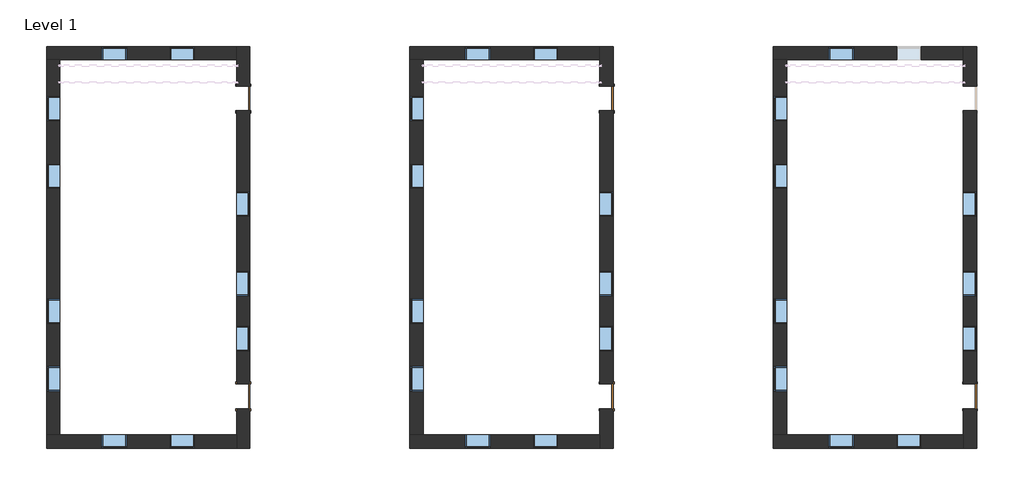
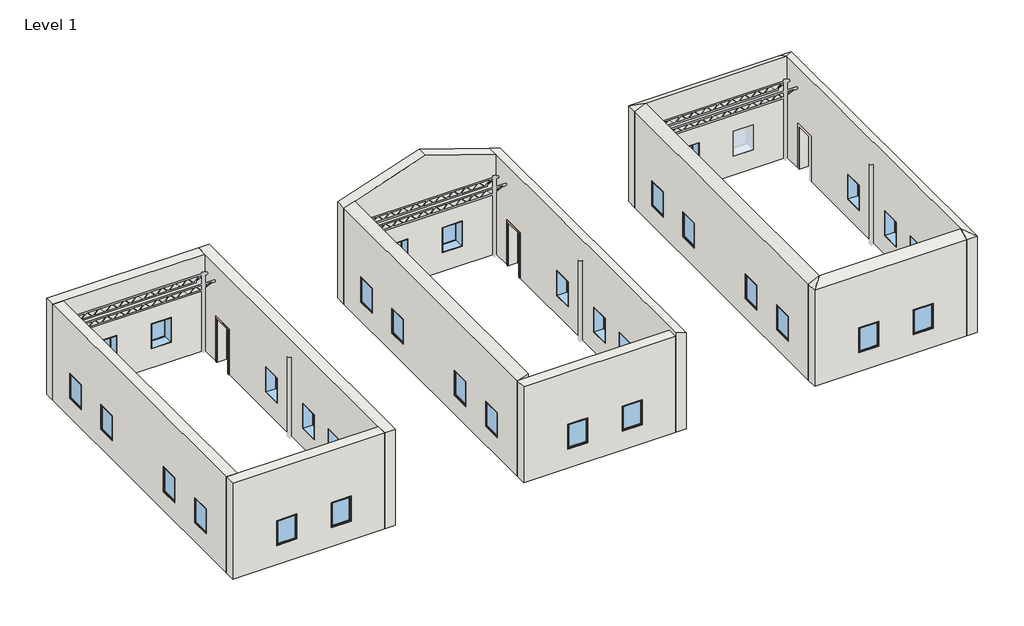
# One storey, part 1 of 2: 32 windows, 12 walls, 5 doors.
"""IFC4 building model written with IfcOpenShell, lengths in millimetres."""

from ifc_helpers import new_model, si_unit, frame, origin, place, context, project, spatial, polyline, outline, extrude, faceted_brep, transform, mapped, element, save
from components import door_88aed75c, door_7d4dd929, window_4cc3bb0a, window_eeedf783

model = new_model("IFC4")

# Units and contexts
model_context = context("Model", 3, world=origin())
ifc_project = project(units=[si_unit("LENGTHUNIT", "METRE", prefix="MILLI")], contexts=[model_context])

# Site, building, storey
site = spatial("IfcSite", under=ifc_project)
building = spatial("IfcBuilding", under=site)
storey = spatial("IfcBuildingStorey", under=building, Name="Level 1", Elevation=0.0)

# Doors
placement = place(None, origin())
door_shape = door_88aed75c(model_context)
element("IfcDoor", 1, ObjectType="Single-Flush : 36\" x 84\"", at=placement, inside=storey, context=model_context, shape_type="MappedRepresentation", body=[
    mapped(door_shape, transform((-21266.5944089, -2505.9398477, 0.0), x_axis=(0.0, -1.0, 0.0), y_axis=(1.0, 0.0, 0.0), z_axis=(0.0, 0.0, 1.0))),
])
element("IfcDoor", 2, ObjectType="Single-Flush : 36\" x 84\"", at=placement, inside=storey, context=model_context, shape_type="MappedRepresentation", body=[
    mapped(door_shape, transform((-7855.3944089, -2505.9398477, 0.0), x_axis=(0.0, -1.0, 0.0), y_axis=(1.0, 0.0, 0.0), z_axis=(0.0, 0.0, 1.0))),
])
element("IfcDoor", 3, ObjectType="Single-Flush : 36\" x 84\"", at=placement, inside=storey, context=model_context, shape_type="MappedRepresentation", body=[
    mapped(door_shape, transform((5555.8055911, -2505.9398477, 0.0), x_axis=(0.0, -1.0, 0.0), y_axis=(1.0, 0.0, 0.0), z_axis=(0.0, 0.0, 1.0))),
])
door_2_shape = door_7d4dd929(model_context)
element("IfcDoor", 4, ObjectType="Single-Flush : 36\" x 84\"", at=placement, inside=storey, context=model_context, shape_type="MappedRepresentation", body=[
    mapped(door_2_shape, transform((-21266.5944089, 8498.6101523, 0.0), x_axis=(0.0, 1.0, 0.0), y_axis=(-1.0, 0.0, 0.0), z_axis=(0.0, 0.0, 1.0))),
])
element("IfcDoor", 5, ObjectType="Single-Flush : 36\" x 84\"", at=placement, inside=storey, context=model_context, shape_type="MappedRepresentation", body=[
    mapped(door_2_shape, transform((-7855.3944089, 8498.6101523, 0.0), x_axis=(0.0, 1.0, 0.0), y_axis=(-1.0, 0.0, 0.0), z_axis=(0.0, 0.0, 1.0))),
])

# Walls
element("IfcWall", 6, ObjectType="Exterior - Brick on CMU", at=placement, inside=storey, context=model_context, shape_type="Brep", body=[
    faceted_brep([(-21018.9444089, 8955.8101523, 2133.6), (-21018.9444089, 8955.8101523, 0.0), (-21018.9444089, 10419.4851523, 0.0), (-21018.9444089, 10419.4851523, 4673.6), (-21018.9444089, -4426.8148477, 4673.6), (-21018.9444089, -4426.8148477, 0.0), (-21018.9444089, -2963.1398477, 0.0), (-21018.9444089, -2963.1398477, 2133.6), (-21018.9444089, -2048.7398477, 2133.6), (-21018.9444089, -2048.7398477, 0.0), (-21018.9444089, 8041.4101523, 0.0), (-21018.9444089, 8041.4101523, 2133.6), (-21018.9444089, 4139.3351523, 2133.6), (-21018.9444089, 5053.7351523, 2133.6), (-21018.9444089, 5053.7351523, 914.4), (-21018.9444089, 4139.3351523, 914.4), (-21018.9444089, -829.5398477, 2133.6), (-21018.9444089, 84.8601523, 2133.6), (-21018.9444089, 84.8601523, 914.4), (-21018.9444089, -829.5398477, 914.4), (-21018.9444089, 1202.4601523, 2133.6), (-21018.9444089, 2116.8601523, 2133.6), (-21018.9444089, 2116.8601523, 914.4), (-21018.9444089, 1202.4601523, 914.4), (-21514.2444089, 10419.4851523, 0.0), (-21514.2444089, 9924.1851523, 0.0), (-21514.2444089, 8955.8101523, 0.0), (-21514.2444089, 8955.8101523, 2133.6), (-21514.2444089, 8041.4101523, 2133.6), (-21514.2444089, 8041.4101523, 0.0), (-21514.2444089, -2048.7398477, 0.0), (-21514.2444089, -2048.7398477, 2133.6), (-21514.2444089, -2963.1398477, 2133.6), (-21514.2444089, -2963.1398477, 0.0), (-21514.2444089, -3931.5148477, 0.0), (-21514.2444089, -4426.8148477, 0.0), (-21514.2444089, -4426.8148477, 4673.6), (-21514.2444089, -3931.5148477, 4673.6), (-21514.2444089, 9924.1851523, 4673.6), (-21514.2444089, 10419.4851523, 4673.6), (-21514.2444089, 4139.3351523, 2133.6), (-21514.2444089, 4139.3351523, 914.4), (-21514.2444089, 5053.7351523, 914.4), (-21514.2444089, 5053.7351523, 2133.6), (-21514.2444089, -829.5398477, 2133.6), (-21514.2444089, -829.5398477, 914.4), (-21514.2444089, 84.8601523, 914.4), (-21514.2444089, 84.8601523, 2133.6), (-21514.2444089, 1202.4601523, 2133.6), (-21514.2444089, 1202.4601523, 914.4), (-21514.2444089, 2116.8601523, 914.4), (-21514.2444089, 2116.8601523, 2133.6)], [[[0, 1, 2, 3, 4, 5, 6, 7, 8, 9, 10, 11], [12, 13, 14, 15], [16, 17, 18, 19], [20, 21, 22, 23]], [[24, 25, 26, 27, 28, 29, 30, 31, 32, 33, 34, 35, 36, 37, 38, 39], [40, 41, 42, 43], [44, 45, 46, 47], [48, 49, 50, 51]], [[35, 34, 33, 6, 5]], [[2, 1, 26, 25, 24]], [[10, 9, 30, 29]], [[4, 3, 39, 38, 37, 36]], [[3, 2, 24, 39]], [[5, 4, 36, 35]], [[7, 6, 33, 32]], [[8, 7, 32, 31]], [[9, 8, 31, 30]], [[27, 26, 1, 0]], [[28, 27, 0, 11]], [[29, 28, 11, 10]], [[41, 40, 12, 15]], [[42, 41, 15, 14]], [[43, 42, 14, 13]], [[40, 43, 13, 12]], [[45, 44, 16, 19]], [[46, 45, 19, 18]], [[47, 46, 18, 17]], [[44, 47, 17, 16]], [[49, 48, 20, 23]], [[50, 49, 23, 22]], [[51, 50, 22, 21]], [[48, 51, 21, 20]]]),
])
element("IfcWall", 7, ObjectType="Exterior - Brick on CMU", at=placement, inside=storey, context=model_context, shape_type="Brep", body=[
    faceted_brep([(-21514.2444089, 10419.4851523, 0.0), (-28524.6444089, 10419.4851523, 0.0), (-28524.6444089, 10419.4851523, 4673.6), (-21514.2444089, 10419.4851523, 4673.6), (-26479.9444089, 10419.4851523, 2133.6), (-26479.9444089, 10419.4851523, 914.4), (-25565.5444089, 10419.4851523, 914.4), (-25565.5444089, 10419.4851523, 2133.6), (-23978.0444089, 10419.4851523, 2133.6), (-23978.0444089, 10419.4851523, 914.4), (-23063.6444089, 10419.4851523, 914.4), (-23063.6444089, 10419.4851523, 2133.6), (-21514.2444089, 9924.1851523, 0.0), (-21514.2444089, 9924.1851523, 4673.6), (-28029.3444089, 9924.1851523, 4673.6), (-28524.6444089, 9924.1851523, 4673.6), (-28524.6444089, 9924.1851523, 0.0), (-28029.3444089, 9924.1851523, 0.0), (-26479.9444089, 9924.1851523, 2133.6), (-25565.5444089, 9924.1851523, 2133.6), (-25565.5444089, 9924.1851523, 914.4), (-26479.9444089, 9924.1851523, 914.4), (-23978.0444089, 9924.1851523, 2133.6), (-23063.6444089, 9924.1851523, 2133.6), (-23063.6444089, 9924.1851523, 914.4), (-23978.0444089, 9924.1851523, 914.4)], [[[0, 1, 2, 3], [4, 5, 6, 7], [8, 9, 10, 11]], [[12, 13, 14, 15, 16, 17], [18, 19, 20, 21], [22, 23, 24, 25]], [[1, 0, 12, 17, 16]], [[3, 2, 15, 14, 13]], [[0, 3, 13, 12]], [[2, 1, 16, 15]], [[5, 4, 18, 21]], [[6, 5, 21, 20]], [[7, 6, 20, 19]], [[4, 7, 19, 18]], [[9, 8, 22, 25]], [[10, 9, 25, 24]], [[11, 10, 24, 23]], [[8, 11, 23, 22]]]),
])
element("IfcWall", 8, ObjectType="Exterior - Brick on CMU", at=placement, inside=storey, context=model_context, shape_type="Brep", body=[
    faceted_brep([(-21514.2444089, -3931.5148477, 0.0), (-28029.3444089, -3931.5148477, 0.0), (-28524.6444089, -3931.5148477, 0.0), (-28524.6444089, -3931.5148477, 4673.6), (-28029.3444089, -3931.5148477, 4673.6), (-21514.2444089, -3931.5148477, 4673.6), (-26479.9444089, -3931.5148477, 2133.6), (-26479.9444089, -3931.5148477, 914.4), (-25565.5444089, -3931.5148477, 914.4), (-25565.5444089, -3931.5148477, 2133.6), (-23978.0444089, -3931.5148477, 2133.6), (-23978.0444089, -3931.5148477, 914.4), (-23063.6444089, -3931.5148477, 914.4), (-23063.6444089, -3931.5148477, 2133.6), (-21514.2444089, -4426.8148477, 0.0), (-21514.2444089, -4426.8148477, 4673.6), (-28524.6444089, -4426.8148477, 4673.6), (-28524.6444089, -4426.8148477, 0.0), (-26479.9444089, -4426.8148477, 2133.6), (-25565.5444089, -4426.8148477, 2133.6), (-25565.5444089, -4426.8148477, 914.4), (-26479.9444089, -4426.8148477, 914.4), (-23978.0444089, -4426.8148477, 2133.6), (-23063.6444089, -4426.8148477, 2133.6), (-23063.6444089, -4426.8148477, 914.4), (-23978.0444089, -4426.8148477, 914.4)], [[[0, 1, 2, 3, 4, 5], [6, 7, 8, 9], [10, 11, 12, 13]], [[14, 15, 16, 17], [18, 19, 20, 21], [22, 23, 24, 25]], [[2, 1, 0, 14, 17]], [[5, 4, 3, 16, 15]], [[0, 5, 15, 14]], [[3, 2, 17, 16]], [[7, 6, 18, 21]], [[8, 7, 21, 20]], [[9, 8, 20, 19]], [[6, 9, 19, 18]], [[11, 10, 22, 25]], [[12, 11, 25, 24]], [[13, 12, 24, 23]], [[10, 13, 23, 22]]]),
])
element("IfcWall", 9, ObjectType="Exterior - Brick on CMU", at=placement, inside=storey, context=model_context, shape_type="SweptSolid", body=[
    extrude(outline(polyline([(-3931.5148477, 0.0), (-3931.5148477, 4673.6), (9924.1851523, 4673.6), (9924.1851523, 0.0), (-3931.5148477, 0.0)]), holes=[polyline([(-1398.923181, 2133.6), (-2313.323181, 2133.6), (-2313.323181, 914.4), (-1398.923181, 914.4), (-1398.923181, 2133.6)]), polyline([(8579.0434857, 2133.6), (7664.6434857, 2133.6), (7664.6434857, 914.4), (8579.0434857, 914.4), (8579.0434857, 2133.6)]), polyline([(1095.5684857, 2133.6), (181.1684857, 2133.6), (181.1684857, 914.4), (1095.5684857, 914.4), (1095.5684857, 2133.6)]), polyline([(6084.551819, 2133.6), (5170.151819, 2133.6), (5170.151819, 914.4), (6084.551819, 914.4), (6084.551819, 2133.6)])]), frame((-28524.6444089, 0.0, 0.0), z_axis=(1.0, 0.0, 0.0), x_axis=(0.0, 1.0, 0.0)), (0.0, 0.0, 1.0), 495.3),
])
element("IfcWall", 10, ObjectType="Exterior - Brick on CMU", at=placement, inside=storey, context=model_context, shape_type="Brep", body=[
    faceted_brep([(-7607.7444089, 8955.8101523, 2133.6), (-7607.7444089, 8955.8101523, 0.0), (-7607.7444089, 10419.4851523, 0.0), (-7607.7444089, 10419.4851523, 4673.6), (-7607.7444089, -4426.8148477, 4673.6), (-7607.7444089, -4426.8148477, 0.0), (-7607.7444089, -2963.1398477, 0.0), (-7607.7444089, -2963.1398477, 2133.6), (-7607.7444089, -2048.7398477, 2133.6), (-7607.7444089, -2048.7398477, 0.0), (-7607.7444089, 8041.4101523, 0.0), (-7607.7444089, 8041.4101523, 2133.6), (-7607.7444089, 4139.3351523, 2133.6), (-7607.7444089, 5053.7351523, 2133.6), (-7607.7444089, 5053.7351523, 914.4), (-7607.7444089, 4139.3351523, 914.4), (-7607.7444089, -829.5398477, 2133.6), (-7607.7444089, 84.8601523, 2133.6), (-7607.7444089, 84.8601523, 914.4), (-7607.7444089, -829.5398477, 914.4), (-7607.7444089, 1202.4601523, 2133.6), (-7607.7444089, 2116.8601523, 2133.6), (-7607.7444089, 2116.8601523, 914.4), (-7607.7444089, 1202.4601523, 914.4), (-8103.0444089, 10419.4851523, 0.0), (-8103.0444089, 9924.1851523, 0.0), (-8103.0444089, 8955.8101523, 0.0), (-8103.0444089, 8955.8101523, 2133.6), (-8103.0444089, 8041.4101523, 2133.6), (-8103.0444089, 8041.4101523, 0.0), (-8103.0444089, -2048.7398477, 0.0), (-8103.0444089, -2048.7398477, 2133.6), (-8103.0444089, -2963.1398477, 2133.6), (-8103.0444089, -2963.1398477, 0.0), (-8103.0444089, -3931.5148477, 0.0), (-8103.0444089, -4426.8148477, 0.0), (-8103.0444089, -4426.8148477, 4673.6), (-8103.0444089, -4426.8148477, 4838.7), (-8103.0444089, 9924.1851523, 4838.7), (-8103.0444089, 10419.4851523, 4838.7), (-8103.0444089, 4139.3351523, 2133.6), (-8103.0444089, 4139.3351523, 914.4), (-8103.0444089, 5053.7351523, 914.4), (-8103.0444089, 5053.7351523, 2133.6), (-8103.0444089, -829.5398477, 2133.6), (-8103.0444089, -829.5398477, 914.4), (-8103.0444089, 84.8601523, 914.4), (-8103.0444089, 84.8601523, 2133.6), (-8103.0444089, 1202.4601523, 2133.6), (-8103.0444089, 1202.4601523, 914.4), (-8103.0444089, 2116.8601523, 914.4), (-8103.0444089, 2116.8601523, 2133.6)], [[[0, 1, 2, 3, 4, 5, 6, 7, 8, 9, 10, 11], [12, 13, 14, 15], [16, 17, 18, 19], [20, 21, 22, 23]], [[24, 25, 26, 27, 28, 29, 30, 31, 32, 33, 34, 35, 36, 37, 38, 39], [40, 41, 42, 43], [44, 45, 46, 47], [48, 49, 50, 51]], [[35, 34, 33, 6, 5]], [[2, 1, 26, 25, 24]], [[10, 9, 30, 29]], [[3, 2, 24, 39]], [[5, 4, 37, 36, 35]], [[4, 3, 39, 38, 37]], [[7, 6, 33, 32]], [[8, 7, 32, 31]], [[9, 8, 31, 30]], [[27, 26, 1, 0]], [[28, 27, 0, 11]], [[29, 28, 11, 10]], [[41, 40, 12, 15]], [[42, 41, 15, 14]], [[43, 42, 14, 13]], [[40, 43, 13, 12]], [[45, 44, 16, 19]], [[46, 45, 19, 18]], [[47, 46, 18, 17]], [[44, 47, 17, 16]], [[49, 48, 20, 23]], [[50, 49, 23, 22]], [[51, 50, 22, 21]], [[48, 51, 21, 20]]]),
])
element("IfcWall", 11, ObjectType="Exterior - Brick on CMU", at=placement, inside=storey, context=model_context, shape_type="Brep", body=[
    faceted_brep([(-8103.0444089, 10419.4851523, 0.0), (-15113.4444089, 10419.4851523, 0.0), (-15113.4444089, 10419.4851523, 4673.6), (-11360.5944089, 10419.4851523, 5924.55), (-8103.0444089, 10419.4851523, 4838.7), (-13068.7444089, 10419.4851523, 2133.6), (-13068.7444089, 10419.4851523, 914.4), (-12154.3444089, 10419.4851523, 914.4), (-12154.3444089, 10419.4851523, 2133.6), (-10566.8444089, 10419.4851523, 2133.6), (-10566.8444089, 10419.4851523, 914.4), (-9652.4444089, 10419.4851523, 914.4), (-9652.4444089, 10419.4851523, 2133.6), (-8103.0444089, 9924.1851523, 0.0), (-8103.0444089, 9924.1851523, 4838.7), (-11360.5944089, 9924.1851523, 5924.55), (-14618.1444089, 9924.1851523, 4838.7), (-15113.4444089, 9924.1851523, 4673.6), (-15113.4444089, 9924.1851523, 0.0), (-14618.1444089, 9924.1851523, 0.0), (-13068.7444089, 9924.1851523, 2133.6), (-12154.3444089, 9924.1851523, 2133.6), (-12154.3444089, 9924.1851523, 914.4), (-13068.7444089, 9924.1851523, 914.4), (-10566.8444089, 9924.1851523, 2133.6), (-9652.4444089, 9924.1851523, 2133.6), (-9652.4444089, 9924.1851523, 914.4), (-10566.8444089, 9924.1851523, 914.4)], [[[0, 1, 2, 3, 4], [5, 6, 7, 8], [9, 10, 11, 12]], [[13, 14, 15, 16, 17, 18, 19], [20, 21, 22, 23], [24, 25, 26, 27]], [[1, 0, 13, 19, 18]], [[0, 4, 14, 13]], [[2, 1, 18, 17]], [[4, 3, 15, 14]], [[3, 2, 17, 16, 15]], [[6, 5, 20, 23]], [[7, 6, 23, 22]], [[8, 7, 22, 21]], [[5, 8, 21, 20]], [[10, 9, 24, 27]], [[11, 10, 27, 26]], [[12, 11, 26, 25]], [[9, 12, 25, 24]]]),
])
element("IfcWall", 12, ObjectType="Exterior - Brick on CMU", at=placement, inside=storey, context=model_context, shape_type="Brep", body=[
    faceted_brep([(-8103.0444089, -3931.5148477, 0.0), (-14618.1444089, -3931.5148477, 0.0), (-15113.4444089, -3931.5148477, 0.0), (-15113.4444089, -3931.5148477, 4673.6), (-8103.0444089, -3931.5148477, 4673.6), (-13068.7444089, -3931.5148477, 2133.6), (-13068.7444089, -3931.5148477, 914.4), (-12154.3444089, -3931.5148477, 914.4), (-12154.3444089, -3931.5148477, 2133.6), (-10566.8444089, -3931.5148477, 2133.6), (-10566.8444089, -3931.5148477, 914.4), (-9652.4444089, -3931.5148477, 914.4), (-9652.4444089, -3931.5148477, 2133.6), (-8103.0444089, -4426.8148477, 0.0), (-8103.0444089, -4426.8148477, 4673.6), (-15113.4444089, -4426.8148477, 4673.6), (-15113.4444089, -4426.8148477, 0.0), (-13068.7444089, -4426.8148477, 2133.6), (-12154.3444089, -4426.8148477, 2133.6), (-12154.3444089, -4426.8148477, 914.4), (-13068.7444089, -4426.8148477, 914.4), (-10566.8444089, -4426.8148477, 2133.6), (-9652.4444089, -4426.8148477, 2133.6), (-9652.4444089, -4426.8148477, 914.4), (-10566.8444089, -4426.8148477, 914.4)], [[[0, 1, 2, 3, 4], [5, 6, 7, 8], [9, 10, 11, 12]], [[13, 14, 15, 16], [17, 18, 19, 20], [21, 22, 23, 24]], [[2, 1, 0, 13, 16]], [[4, 3, 15, 14]], [[0, 4, 14, 13]], [[3, 2, 16, 15]], [[6, 5, 17, 20]], [[7, 6, 20, 19]], [[8, 7, 19, 18]], [[5, 8, 18, 17]], [[10, 9, 21, 24]], [[11, 10, 24, 23]], [[12, 11, 23, 22]], [[9, 12, 22, 21]]]),
])
element("IfcWall", 13, ObjectType="Exterior - Brick on CMU", at=placement, inside=storey, context=model_context, shape_type="Brep", body=[
    faceted_brep([(-14618.1444089, -3931.5148477, 0.0), (-14618.1444089, 9924.1851523, 0.0), (-14618.1444089, 9924.1851523, 4838.7), (-14618.1444089, -3931.5148477, 4838.7), (-14618.1444089, -1398.923181, 2133.6), (-14618.1444089, -1398.923181, 914.4), (-14618.1444089, -2313.323181, 914.4), (-14618.1444089, -2313.323181, 2133.6), (-14618.1444089, 8579.0434857, 2133.6), (-14618.1444089, 8579.0434857, 914.4), (-14618.1444089, 7664.6434857, 914.4), (-14618.1444089, 7664.6434857, 2133.6), (-14618.1444089, 1095.5684857, 2133.6), (-14618.1444089, 1095.5684857, 914.4), (-14618.1444089, 181.1684857, 914.4), (-14618.1444089, 181.1684857, 2133.6), (-14618.1444089, 6084.551819, 2133.6), (-14618.1444089, 6084.551819, 914.4), (-14618.1444089, 5170.151819, 914.4), (-14618.1444089, 5170.151819, 2133.6), (-15113.4444089, -3931.5148477, 0.0), (-15113.4444089, -3931.5148477, 4673.6), (-15113.4444089, 9924.1851523, 4673.6), (-15113.4444089, 9924.1851523, 0.0), (-15113.4444089, -1398.923181, 2133.6), (-15113.4444089, -2313.323181, 2133.6), (-15113.4444089, -2313.323181, 914.4), (-15113.4444089, -1398.923181, 914.4), (-15113.4444089, 8579.0434857, 2133.6), (-15113.4444089, 7664.6434857, 2133.6), (-15113.4444089, 7664.6434857, 914.4), (-15113.4444089, 8579.0434857, 914.4), (-15113.4444089, 1095.5684857, 2133.6), (-15113.4444089, 181.1684857, 2133.6), (-15113.4444089, 181.1684857, 914.4), (-15113.4444089, 1095.5684857, 914.4), (-15113.4444089, 6084.551819, 2133.6), (-15113.4444089, 5170.151819, 2133.6), (-15113.4444089, 5170.151819, 914.4), (-15113.4444089, 6084.551819, 914.4)], [[[0, 1, 2, 3], [4, 5, 6, 7], [8, 9, 10, 11], [12, 13, 14, 15], [16, 17, 18, 19]], [[20, 21, 22, 23], [24, 25, 26, 27], [28, 29, 30, 31], [32, 33, 34, 35], [36, 37, 38, 39]], [[1, 0, 20, 23]], [[2, 1, 23, 22]], [[0, 3, 21, 20]], [[3, 2, 22, 21]], [[5, 4, 24, 27]], [[6, 5, 27, 26]], [[7, 6, 26, 25]], [[4, 7, 25, 24]], [[9, 8, 28, 31]], [[10, 9, 31, 30]], [[11, 10, 30, 29]], [[8, 11, 29, 28]], [[13, 12, 32, 35]], [[14, 13, 35, 34]], [[15, 14, 34, 33]], [[12, 15, 33, 32]], [[17, 16, 36, 39]], [[18, 17, 39, 38]], [[19, 18, 38, 37]], [[16, 19, 37, 36]]]),
])
element("IfcWall", 14, ObjectType="Exterior - Brick on CMU", at=placement, inside=storey, context=model_context, shape_type="Brep", body=[
    faceted_brep([(5803.4555911, 8955.8101523, 2133.6), (5803.4555911, 8955.8101523, 0.0), (5803.4555911, 10419.4851523, 0.0), (5803.4555911, 10419.4851523, 4673.6), (5803.4555911, -4426.8148477, 4673.6), (5803.4555911, -4426.8148477, 0.0), (5803.4555911, -2963.1398477, 0.0), (5803.4555911, -2963.1398477, 2133.6), (5803.4555911, -2048.7398477, 2133.6), (5803.4555911, -2048.7398477, 0.0), (5803.4555911, 8041.4101523, 0.0), (5803.4555911, 8041.4101523, 2133.6), (5803.4555911, 4139.3351523, 2133.6), (5803.4555911, 5053.7351523, 2133.6), (5803.4555911, 5053.7351523, 914.4), (5803.4555911, 4139.3351523, 914.4), (5803.4555911, -829.5398477, 2133.6), (5803.4555911, 84.8601523, 2133.6), (5803.4555911, 84.8601523, 914.4), (5803.4555911, -829.5398477, 914.4), (5803.4555911, 1202.4601523, 2133.6), (5803.4555911, 2116.8601523, 2133.6), (5803.4555911, 2116.8601523, 914.4), (5803.4555911, 1202.4601523, 914.4), (5308.1555911, 10419.4851523, 0.0), (5308.1555911, 9924.1851523, 0.0), (5308.1555911, 8955.8101523, 0.0), (5308.1555911, 8955.8101523, 2133.6), (5308.1555911, 8041.4101523, 2133.6), (5308.1555911, 8041.4101523, 0.0), (5308.1555911, -2048.7398477, 0.0), (5308.1555911, -2048.7398477, 2133.6), (5308.1555911, -2963.1398477, 2133.6), (5308.1555911, -2963.1398477, 0.0), (5308.1555911, -3931.5148477, 0.0), (5308.1555911, -4426.8148477, 0.0), (5308.1555911, -4426.8148477, 4673.6), (5308.1555911, -3931.5148477, 4921.25), (5308.1555911, 9924.1851523, 4921.25), (5308.1555911, 10419.4851523, 4673.6), (5308.1555911, 4139.3351523, 2133.6), (5308.1555911, 4139.3351523, 914.4), (5308.1555911, 5053.7351523, 914.4), (5308.1555911, 5053.7351523, 2133.6), (5308.1555911, -829.5398477, 2133.6), (5308.1555911, -829.5398477, 914.4), (5308.1555911, 84.8601523, 914.4), (5308.1555911, 84.8601523, 2133.6), (5308.1555911, 1202.4601523, 2133.6), (5308.1555911, 1202.4601523, 914.4), (5308.1555911, 2116.8601523, 914.4), (5308.1555911, 2116.8601523, 2133.6)], [[[0, 1, 2, 3, 4, 5, 6, 7, 8, 9, 10, 11], [12, 13, 14, 15], [16, 17, 18, 19], [20, 21, 22, 23]], [[24, 25, 26, 27, 28, 29, 30, 31, 32, 33, 34, 35, 36, 37, 38, 39], [40, 41, 42, 43], [44, 45, 46, 47], [48, 49, 50, 51]], [[35, 34, 33, 6, 5]], [[2, 1, 26, 25, 24]], [[10, 9, 30, 29]], [[3, 2, 24, 39]], [[5, 4, 36, 35]], [[4, 3, 38, 37]], [[3, 39, 38]], [[37, 36, 4]], [[7, 6, 33, 32]], [[8, 7, 32, 31]], [[9, 8, 31, 30]], [[27, 26, 1, 0]], [[28, 27, 0, 11]], [[29, 28, 11, 10]], [[41, 40, 12, 15]], [[42, 41, 15, 14]], [[43, 42, 14, 13]], [[40, 43, 13, 12]], [[45, 44, 16, 19]], [[46, 45, 19, 18]], [[47, 46, 18, 17]], [[44, 47, 17, 16]], [[49, 48, 20, 23]], [[50, 49, 23, 22]], [[51, 50, 22, 21]], [[48, 51, 21, 20]]]),
])
element("IfcWall", 15, ObjectType="Exterior - Brick on CMU", at=placement, inside=storey, context=model_context, shape_type="Brep", body=[
    faceted_brep([(5308.1555911, 10419.4851523, 0.0), (-1702.2444089, 10419.4851523, 0.0), (-1702.2444089, 10419.4851523, 4673.6), (5308.1555911, 10419.4851523, 4673.6), (342.4555911, 10419.4851523, 2133.6), (342.4555911, 10419.4851523, 914.4), (1256.8555911, 10419.4851523, 914.4), (1256.8555911, 10419.4851523, 2133.6), (2844.3555911, 10419.4851523, 2133.6), (2844.3555911, 10419.4851523, 914.4), (3758.7555911, 10419.4851523, 914.4), (3758.7555911, 10419.4851523, 2133.6), (5308.1555911, 9924.1851523, 0.0), (5308.1555911, 9924.1851523, 4921.25), (-1206.9444089, 9924.1851523, 4921.25), (-1702.2444089, 9924.1851523, 4673.6), (-1702.2444089, 9924.1851523, 0.0), (-1206.9444089, 9924.1851523, 0.0), (342.4555911, 9924.1851523, 2133.6), (1256.8555911, 9924.1851523, 2133.6), (1256.8555911, 9924.1851523, 914.4), (342.4555911, 9924.1851523, 914.4), (2844.3555911, 9924.1851523, 2133.6), (3758.7555911, 9924.1851523, 2133.6), (3758.7555911, 9924.1851523, 914.4), (2844.3555911, 9924.1851523, 914.4)], [[[0, 1, 2, 3], [4, 5, 6, 7], [8, 9, 10, 11]], [[12, 13, 14, 15, 16, 17], [18, 19, 20, 21], [22, 23, 24, 25]], [[1, 0, 12, 17, 16]], [[0, 3, 13, 12]], [[2, 1, 16, 15]], [[3, 2, 14, 13]], [[2, 15, 14]], [[5, 4, 18, 21]], [[6, 5, 21, 20]], [[7, 6, 20, 19]], [[4, 7, 19, 18]], [[9, 8, 22, 25]], [[10, 9, 25, 24]], [[11, 10, 24, 23]], [[8, 11, 23, 22]]]),
])
element("IfcWall", 16, ObjectType="Exterior - Brick on CMU", at=placement, inside=storey, context=model_context, shape_type="Brep", body=[
    faceted_brep([(5308.1555911, -3931.5148477, 0.0), (-1206.9444089, -3931.5148477, 0.0), (-1702.2444089, -3931.5148477, 0.0), (-1702.2444089, -3931.5148477, 4673.6), (-1206.9444089, -3931.5148477, 4921.25), (5308.1555911, -3931.5148477, 4921.25), (342.4555911, -3931.5148477, 2133.6), (342.4555911, -3931.5148477, 914.4), (1256.8555911, -3931.5148477, 914.4), (1256.8555911, -3931.5148477, 2133.6), (2844.3555911, -3931.5148477, 2133.6), (2844.3555911, -3931.5148477, 914.4), (3758.7555911, -3931.5148477, 914.4), (3758.7555911, -3931.5148477, 2133.6), (5308.1555911, -4426.8148477, 0.0), (5308.1555911, -4426.8148477, 4673.6), (-1702.2444089, -4426.8148477, 4673.6), (-1702.2444089, -4426.8148477, 0.0), (342.4555911, -4426.8148477, 2133.6), (1256.8555911, -4426.8148477, 2133.6), (1256.8555911, -4426.8148477, 914.4), (342.4555911, -4426.8148477, 914.4), (2844.3555911, -4426.8148477, 2133.6), (3758.7555911, -4426.8148477, 2133.6), (3758.7555911, -4426.8148477, 914.4), (2844.3555911, -4426.8148477, 914.4)], [[[0, 1, 2, 3, 4, 5], [6, 7, 8, 9], [10, 11, 12, 13]], [[14, 15, 16, 17], [18, 19, 20, 21], [22, 23, 24, 25]], [[2, 1, 0, 14, 17]], [[0, 5, 15, 14]], [[3, 2, 17, 16]], [[5, 4, 16, 15]], [[4, 3, 16]], [[7, 6, 18, 21]], [[8, 7, 21, 20]], [[9, 8, 20, 19]], [[6, 9, 19, 18]], [[11, 10, 22, 25]], [[12, 11, 25, 24]], [[13, 12, 24, 23]], [[10, 13, 23, 22]]]),
])
element("IfcWall", 17, ObjectType="Exterior - Brick on CMU", at=placement, inside=storey, context=model_context, shape_type="Brep", body=[
    faceted_brep([(-1206.9444089, -3931.5148477, 0.0), (-1206.9444089, 9924.1851523, 0.0), (-1206.9444089, 9924.1851523, 4921.25), (-1206.9444089, -3931.5148477, 4921.25), (-1206.9444089, -1398.923181, 2133.6), (-1206.9444089, -1398.923181, 914.4), (-1206.9444089, -2313.323181, 914.4), (-1206.9444089, -2313.323181, 2133.6), (-1206.9444089, 8579.0434857, 2133.6), (-1206.9444089, 8579.0434857, 914.4), (-1206.9444089, 7664.6434857, 914.4), (-1206.9444089, 7664.6434857, 2133.6), (-1206.9444089, 1095.5684857, 2133.6), (-1206.9444089, 1095.5684857, 914.4), (-1206.9444089, 181.1684857, 914.4), (-1206.9444089, 181.1684857, 2133.6), (-1206.9444089, 6084.551819, 2133.6), (-1206.9444089, 6084.551819, 914.4), (-1206.9444089, 5170.151819, 914.4), (-1206.9444089, 5170.151819, 2133.6), (-1702.2444089, -3931.5148477, 0.0), (-1702.2444089, -3931.5148477, 4673.6), (-1702.2444089, 9924.1851523, 4673.6), (-1702.2444089, 9924.1851523, 0.0), (-1702.2444089, -1398.923181, 2133.6), (-1702.2444089, -2313.323181, 2133.6), (-1702.2444089, -2313.323181, 914.4), (-1702.2444089, -1398.923181, 914.4), (-1702.2444089, 8579.0434857, 2133.6), (-1702.2444089, 7664.6434857, 2133.6), (-1702.2444089, 7664.6434857, 914.4), (-1702.2444089, 8579.0434857, 914.4), (-1702.2444089, 1095.5684857, 2133.6), (-1702.2444089, 181.1684857, 2133.6), (-1702.2444089, 181.1684857, 914.4), (-1702.2444089, 1095.5684857, 914.4), (-1702.2444089, 6084.551819, 2133.6), (-1702.2444089, 5170.151819, 2133.6), (-1702.2444089, 5170.151819, 914.4), (-1702.2444089, 6084.551819, 914.4)], [[[0, 1, 2, 3], [4, 5, 6, 7], [8, 9, 10, 11], [12, 13, 14, 15], [16, 17, 18, 19]], [[20, 21, 22, 23], [24, 25, 26, 27], [28, 29, 30, 31], [32, 33, 34, 35], [36, 37, 38, 39]], [[1, 0, 20, 23]], [[2, 1, 23, 22]], [[0, 3, 21, 20]], [[3, 2, 22, 21]], [[5, 4, 24, 27]], [[6, 5, 27, 26]], [[7, 6, 26, 25]], [[4, 7, 25, 24]], [[9, 8, 28, 31]], [[10, 9, 31, 30]], [[11, 10, 30, 29]], [[8, 11, 29, 28]], [[13, 12, 32, 35]], [[14, 13, 35, 34]], [[15, 14, 34, 33]], [[12, 15, 33, 32]], [[17, 16, 36, 39]], [[18, 17, 39, 38]], [[19, 18, 38, 37]], [[16, 19, 37, 36]]]),
])

# Windows
window_shape = window_4cc3bb0a(model_context)
element("IfcWindow", 18, ObjectType="Fixed : 36\" x 48\"", at=placement, inside=storey, context=model_context, shape_type="MappedRepresentation", body=[
    mapped(window_shape, transform((-26060.8444089, -4179.1648477, 0.0), x_axis=(-1.0, 0.0, 0.0), y_axis=(0.0, -1.0, 0.0), z_axis=(0.0, 0.0, 1.0))),
])
element("IfcWindow", 19, ObjectType="Fixed : 36\" x 48\"", at=placement, inside=storey, context=model_context, shape_type="MappedRepresentation", body=[
    mapped(window_shape, transform((-23558.9444089, -4179.1648477, 0.0), x_axis=(-1.0, 0.0, 0.0), y_axis=(0.0, -1.0, 0.0), z_axis=(0.0, 0.0, 1.0))),
])
element("IfcWindow", 20, ObjectType="Fixed : 36\" x 48\"", at=placement, inside=storey, context=model_context, shape_type="MappedRepresentation", body=[
    mapped(window_shape, transform((-28276.9944089, -1818.023181, 0.0), x_axis=(0.0, 1.0, 0.0), y_axis=(-1.0, 0.0, 0.0), z_axis=(0.0, 0.0, 1.0))),
])
element("IfcWindow", 21, ObjectType="Fixed : 36\" x 48\"", at=placement, inside=storey, context=model_context, shape_type="MappedRepresentation", body=[
    mapped(window_shape, transform((-28276.9944089, 8159.9434857, 0.0), x_axis=(0.0, 1.0, 0.0), y_axis=(-1.0, 0.0, 0.0), z_axis=(0.0, 0.0, 1.0))),
])
element("IfcWindow", 22, ObjectType="Fixed : 36\" x 48\"", at=placement, inside=storey, context=model_context, shape_type="MappedRepresentation", body=[
    mapped(window_shape, transform((-28276.9944089, 676.4684857, 0.0), x_axis=(0.0, 1.0, 0.0), y_axis=(-1.0, 0.0, 0.0), z_axis=(0.0, 0.0, 1.0))),
])
element("IfcWindow", 23, ObjectType="Fixed : 36\" x 48\"", at=placement, inside=storey, context=model_context, shape_type="MappedRepresentation", body=[
    mapped(window_shape, transform((-28276.9944089, 5665.451819, 0.0), x_axis=(0.0, 1.0, 0.0), y_axis=(-1.0, 0.0, 0.0), z_axis=(0.0, 0.0, 1.0))),
])
element("IfcWindow", 24, ObjectType="Fixed : 36\" x 48\"", at=placement, inside=storey, context=model_context, shape_type="MappedRepresentation", body=[
    mapped(window_shape, transform((-21266.5944089, 4558.4351523, 0.0), x_axis=(0.0, -1.0, 0.0), y_axis=(1.0, 0.0, 0.0), z_axis=(0.0, 0.0, 1.0))),
])
element("IfcWindow", 25, ObjectType="Fixed : 36\" x 48\"", at=placement, inside=storey, context=model_context, shape_type="MappedRepresentation", body=[
    mapped(window_shape, transform((-21266.5944089, -410.4398477, 0.0), x_axis=(0.0, -1.0, 0.0), y_axis=(1.0, 0.0, 0.0), z_axis=(0.0, 0.0, 1.0))),
])
element("IfcWindow", 26, ObjectType="Fixed : 36\" x 48\"", at=placement, inside=storey, context=model_context, shape_type="MappedRepresentation", body=[
    mapped(window_shape, transform((-21266.5944089, 1621.5601523, 0.0), x_axis=(0.0, -1.0, 0.0), y_axis=(1.0, 0.0, 0.0), z_axis=(0.0, 0.0, 1.0))),
])
element("IfcWindow", 27, ObjectType="Fixed : 36\" x 48\"", at=placement, inside=storey, context=model_context, shape_type="MappedRepresentation", body=[
    mapped(window_shape, transform((-12649.6444089, -4179.1648477, 0.0), x_axis=(-1.0, 0.0, 0.0), y_axis=(0.0, -1.0, 0.0), z_axis=(0.0, 0.0, 1.0))),
])
element("IfcWindow", 28, ObjectType="Fixed : 36\" x 48\"", at=placement, inside=storey, context=model_context, shape_type="MappedRepresentation", body=[
    mapped(window_shape, transform((-10147.7444089, -4179.1648477, 0.0), x_axis=(-1.0, 0.0, 0.0), y_axis=(0.0, -1.0, 0.0), z_axis=(0.0, 0.0, 1.0))),
])
element("IfcWindow", 29, ObjectType="Fixed : 36\" x 48\"", at=placement, inside=storey, context=model_context, shape_type="MappedRepresentation", body=[
    mapped(window_shape, transform((-14865.7944089, -1818.023181, 0.0), x_axis=(0.0, 1.0, 0.0), y_axis=(-1.0, 0.0, 0.0), z_axis=(0.0, 0.0, 1.0))),
])
element("IfcWindow", 30, ObjectType="Fixed : 36\" x 48\"", at=placement, inside=storey, context=model_context, shape_type="MappedRepresentation", body=[
    mapped(window_shape, transform((-14865.7944089, 8159.9434857, 0.0), x_axis=(0.0, 1.0, 0.0), y_axis=(-1.0, 0.0, 0.0), z_axis=(0.0, 0.0, 1.0))),
])
element("IfcWindow", 31, ObjectType="Fixed : 36\" x 48\"", at=placement, inside=storey, context=model_context, shape_type="MappedRepresentation", body=[
    mapped(window_shape, transform((-14865.7944089, 676.4684857, 0.0), x_axis=(0.0, 1.0, 0.0), y_axis=(-1.0, 0.0, 0.0), z_axis=(0.0, 0.0, 1.0))),
])
element("IfcWindow", 32, ObjectType="Fixed : 36\" x 48\"", at=placement, inside=storey, context=model_context, shape_type="MappedRepresentation", body=[
    mapped(window_shape, transform((-14865.7944089, 5665.451819, 0.0), x_axis=(0.0, 1.0, 0.0), y_axis=(-1.0, 0.0, 0.0), z_axis=(0.0, 0.0, 1.0))),
])
element("IfcWindow", 33, ObjectType="Fixed : 36\" x 48\"", at=placement, inside=storey, context=model_context, shape_type="MappedRepresentation", body=[
    mapped(window_shape, transform((-7855.3944089, 4558.4351523, 0.0), x_axis=(0.0, -1.0, 0.0), y_axis=(1.0, 0.0, 0.0), z_axis=(0.0, 0.0, 1.0))),
])
element("IfcWindow", 34, ObjectType="Fixed : 36\" x 48\"", at=placement, inside=storey, context=model_context, shape_type="MappedRepresentation", body=[
    mapped(window_shape, transform((-7855.3944089, -410.4398477, 0.0), x_axis=(0.0, -1.0, 0.0), y_axis=(1.0, 0.0, 0.0), z_axis=(0.0, 0.0, 1.0))),
])
element("IfcWindow", 35, ObjectType="Fixed : 36\" x 48\"", at=placement, inside=storey, context=model_context, shape_type="MappedRepresentation", body=[
    mapped(window_shape, transform((-7855.3944089, 1621.5601523, 0.0), x_axis=(0.0, -1.0, 0.0), y_axis=(1.0, 0.0, 0.0), z_axis=(0.0, 0.0, 1.0))),
])
element("IfcWindow", 36, ObjectType="Fixed : 36\" x 48\"", at=placement, inside=storey, context=model_context, shape_type="MappedRepresentation", body=[
    mapped(window_shape, transform((761.5555911, -4179.1648477, 0.0), x_axis=(-1.0, 0.0, 0.0), y_axis=(0.0, -1.0, 0.0), z_axis=(0.0, 0.0, 1.0))),
])
element("IfcWindow", 37, ObjectType="Fixed : 36\" x 48\"", at=placement, inside=storey, context=model_context, shape_type="MappedRepresentation", body=[
    mapped(window_shape, transform((3263.4555911, -4179.1648477, 0.0), x_axis=(-1.0, 0.0, 0.0), y_axis=(0.0, -1.0, 0.0), z_axis=(0.0, 0.0, 1.0))),
])
element("IfcWindow", 38, ObjectType="Fixed : 36\" x 48\"", at=placement, inside=storey, context=model_context, shape_type="MappedRepresentation", body=[
    mapped(window_shape, transform((-1454.5944089, -1818.023181, 0.0), x_axis=(0.0, 1.0, 0.0), y_axis=(-1.0, 0.0, 0.0), z_axis=(0.0, 0.0, 1.0))),
])
element("IfcWindow", 39, ObjectType="Fixed : 36\" x 48\"", at=placement, inside=storey, context=model_context, shape_type="MappedRepresentation", body=[
    mapped(window_shape, transform((-1454.5944089, 8159.9434857, 0.0), x_axis=(0.0, 1.0, 0.0), y_axis=(-1.0, 0.0, 0.0), z_axis=(0.0, 0.0, 1.0))),
])
element("IfcWindow", 40, ObjectType="Fixed : 36\" x 48\"", at=placement, inside=storey, context=model_context, shape_type="MappedRepresentation", body=[
    mapped(window_shape, transform((-1454.5944089, 676.4684857, 0.0), x_axis=(0.0, 1.0, 0.0), y_axis=(-1.0, 0.0, 0.0), z_axis=(0.0, 0.0, 1.0))),
])
element("IfcWindow", 41, ObjectType="Fixed : 36\" x 48\"", at=placement, inside=storey, context=model_context, shape_type="MappedRepresentation", body=[
    mapped(window_shape, transform((-1454.5944089, 5665.451819, 0.0), x_axis=(0.0, 1.0, 0.0), y_axis=(-1.0, 0.0, 0.0), z_axis=(0.0, 0.0, 1.0))),
])
element("IfcWindow", 42, ObjectType="Fixed : 36\" x 48\"", at=placement, inside=storey, context=model_context, shape_type="MappedRepresentation", body=[
    mapped(window_shape, transform((5555.8055911, 4558.4351523, 0.0), x_axis=(0.0, -1.0, 0.0), y_axis=(1.0, 0.0, 0.0), z_axis=(0.0, 0.0, 1.0))),
])
element("IfcWindow", 43, ObjectType="Fixed : 36\" x 48\"", at=placement, inside=storey, context=model_context, shape_type="MappedRepresentation", body=[
    mapped(window_shape, transform((5555.8055911, -410.4398477, 0.0), x_axis=(0.0, -1.0, 0.0), y_axis=(1.0, 0.0, 0.0), z_axis=(0.0, 0.0, 1.0))),
])
element("IfcWindow", 44, ObjectType="Fixed : 36\" x 48\"", at=placement, inside=storey, context=model_context, shape_type="MappedRepresentation", body=[
    mapped(window_shape, transform((5555.8055911, 1621.5601523, 0.0), x_axis=(0.0, -1.0, 0.0), y_axis=(1.0, 0.0, 0.0), z_axis=(0.0, 0.0, 1.0))),
])
window_2_shape = window_eeedf783(model_context)
element("IfcWindow", 45, ObjectType="Fixed : 36\" x 48\"", at=placement, inside=storey, context=model_context, shape_type="MappedRepresentation", body=[
    mapped(window_2_shape, transform((-26060.8444089, 10171.8351523, 0.0), x_axis=(-1.0, 0.0, 0.0), y_axis=(0.0, -1.0, 0.0), z_axis=(0.0, 0.0, 1.0))),
])
element("IfcWindow", 46, ObjectType="Fixed : 36\" x 48\"", at=placement, inside=storey, context=model_context, shape_type="MappedRepresentation", body=[
    mapped(window_2_shape, transform((-23558.9444089, 10171.8351523, 0.0), x_axis=(-1.0, 0.0, 0.0), y_axis=(0.0, -1.0, 0.0), z_axis=(0.0, 0.0, 1.0))),
])
element("IfcWindow", 47, ObjectType="Fixed : 36\" x 48\"", at=placement, inside=storey, context=model_context, shape_type="MappedRepresentation", body=[
    mapped(window_2_shape, transform((-12649.6444089, 10171.8351523, 0.0), x_axis=(-1.0, 0.0, 0.0), y_axis=(0.0, -1.0, 0.0), z_axis=(0.0, 0.0, 1.0))),
])
element("IfcWindow", 48, ObjectType="Fixed : 36\" x 48\"", at=placement, inside=storey, context=model_context, shape_type="MappedRepresentation", body=[
    mapped(window_2_shape, transform((-10147.7444089, 10171.8351523, 0.0), x_axis=(-1.0, 0.0, 0.0), y_axis=(0.0, -1.0, 0.0), z_axis=(0.0, 0.0, 1.0))),
])
element("IfcWindow", 49, ObjectType="Fixed : 36\" x 48\"", at=placement, inside=storey, context=model_context, shape_type="MappedRepresentation", body=[
    mapped(window_2_shape, transform((761.5555911, 10171.8351523, 0.0), x_axis=(-1.0, 0.0, 0.0), y_axis=(0.0, -1.0, 0.0), z_axis=(0.0, 0.0, 1.0))),
])

save(model, "model.ifc")
